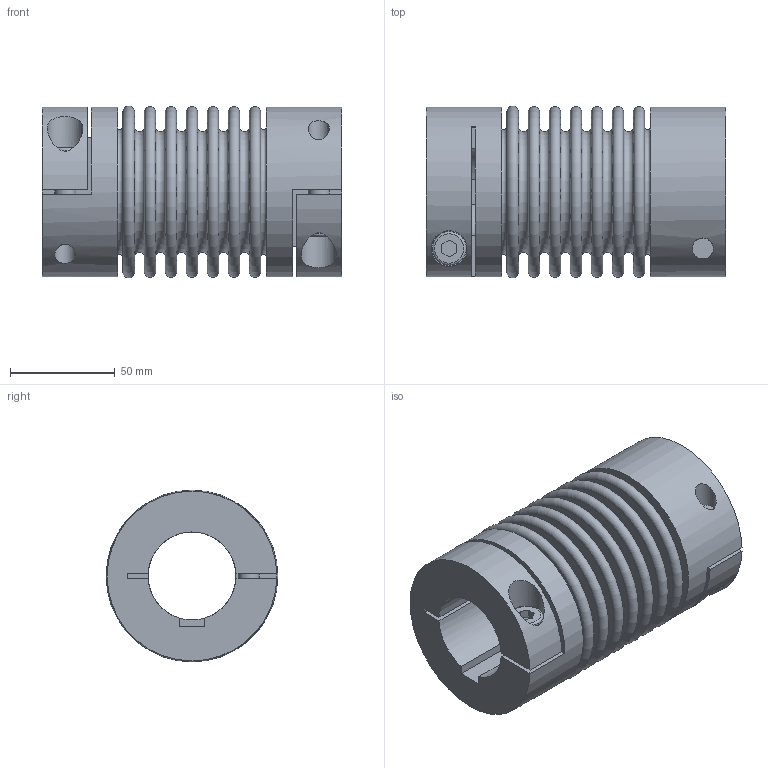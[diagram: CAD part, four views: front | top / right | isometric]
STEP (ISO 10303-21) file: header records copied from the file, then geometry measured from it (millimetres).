
FILE_DESCRIPTION(/* description */ ('STEP AP214'),/* implementation_level */ '2;1');
FILE_NAME(/* name */ 'C:\Diequa Files\DieQua Coupling\Website Step Files\BC.80.143.#.#.stp',/* time_stamp */ '2018-10-25T16:21:11-05:00',/* author */ ('DiequaCAD'),/* organization */ (''),/* preprocessor_version */ 'ST-DEVELOPER v17.2',/* originating_system */ 'Autodesk Inventor 2019',/* authorisation */ ' ');
FILE_SCHEMA (('AUTOMOTIVE_DESIGN { 1 0 10303 214 3 1 1 }'));
Length unit declared in the file: millimetre
Products named in the file (1): BC2.80.143.#.#
Bounding box: 143 x 81.97 x 81.97 mm (x, y, z)
Volume: 266152.9 mm3; surface area: 146512.1 mm2
Topology: 1 solids, 1 shells, 121 faces, 304 edges, 223 vertices
Faces by surface type: plane 74, torus 32, cylinder 14, cone 1
Full cylindrical faces by diameter (mm): 10 x4, 16 x2, 17 x2, 81 x2
Entity records: 4015 total; most frequent: CARTESIAN_POINT 800, DIRECTION 731, ORIENTED_EDGE 608, AXIS2_PLACEMENT_3D 312, EDGE_CURVE 304, VERTEX_POINT 223, CIRCLE 190, EDGE_LOOP 165
